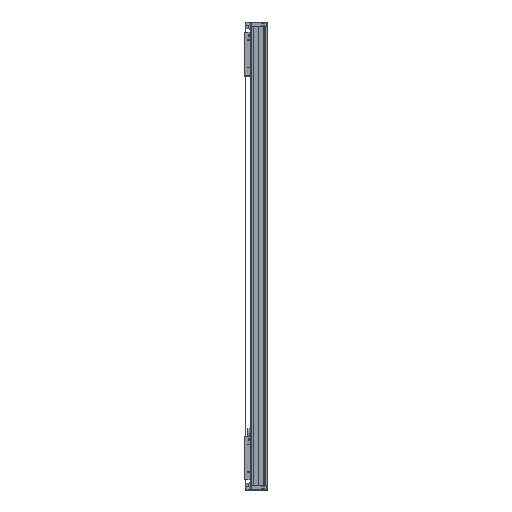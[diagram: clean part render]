
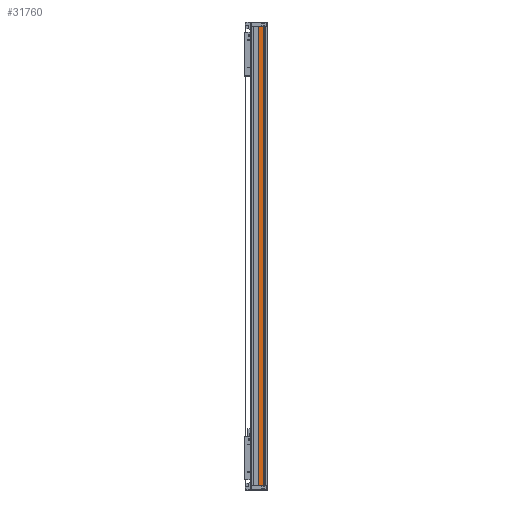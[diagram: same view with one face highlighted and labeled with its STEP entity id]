
A CAD part, left-side view. The second image highlights one B-rep face of the part: STEP entity #31760.
In plain terms, the highlighted planar face has unit normal (-1, 0, 0).
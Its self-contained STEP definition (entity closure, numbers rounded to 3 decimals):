
#253 = DIRECTION ( 'NONE',  ( 0., -1., 0. ) ) ;
#6316 = DIRECTION ( 'NONE',  ( 0., -1., 0. ) ) ;
#10297 = EDGE_CURVE ( 'NONE', #68422, #66374, #28330, .T. ) ;
#12590 = CARTESIAN_POINT ( 'NONE',  ( -41., 28., 750. ) ) ;
#14736 = DIRECTION ( 'NONE',  ( 1., 0., 0. ) ) ;
#19163 = AXIS2_PLACEMENT_3D ( 'NONE', #52039, #14736, #19345 ) ;
#19345 = DIRECTION ( 'NONE',  ( 0., 1., 0. ) ) ;
#23216 = DIRECTION ( 'NONE',  ( 0., 0., -1. ) ) ;
#23862 = EDGE_LOOP ( 'NONE', ( #42860, #25531, #59072, #67830 ) ) ;
#25531 = ORIENTED_EDGE ( 'NONE', *, *, #37155, .F. ) ;
#26899 = LINE ( 'NONE', #43949, #44994 ) ;
#28330 = LINE ( 'NONE', #39368, #67934 ) ;
#31760 = ADVANCED_FACE ( 'NONE', ( #67652 ), #46714, .F. ) ;
#32824 = LINE ( 'NONE', #12590, #45047 ) ;
#37155 = EDGE_CURVE ( 'NONE', #66374, #68915, #39187, .T. ) ;
#39187 = LINE ( 'NONE', #39546, #41783 ) ;
#39368 = CARTESIAN_POINT ( 'NONE',  ( -41., 28., 750. ) ) ;
#39546 = CARTESIAN_POINT ( 'NONE',  ( -41., 12., 750. ) ) ;
#40871 = CARTESIAN_POINT ( 'NONE',  ( -41., 12., -750. ) ) ;
#41783 = VECTOR ( 'NONE', #60498, 1000. ) ;
#42860 = ORIENTED_EDGE ( 'NONE', *, *, #53706, .T. ) ;
#43949 = CARTESIAN_POINT ( 'NONE',  ( -41., 28., -750. ) ) ;
#44994 = VECTOR ( 'NONE', #253, 1000. ) ;
#45047 = VECTOR ( 'NONE', #23216, 1000. ) ;
#46714 = PLANE ( 'NONE',  #19163 ) ;
#47937 = CARTESIAN_POINT ( 'NONE',  ( -41., 12., 750. ) ) ;
#52039 = CARTESIAN_POINT ( 'NONE',  ( -41., 28., 750. ) ) ;
#53706 = EDGE_CURVE ( 'NONE', #61431, #68915, #26899, .T. ) ;
#57277 = CARTESIAN_POINT ( 'NONE',  ( -41., 28., 750. ) ) ;
#59072 = ORIENTED_EDGE ( 'NONE', *, *, #10297, .F. ) ;
#60498 = DIRECTION ( 'NONE',  ( 0., 0., -1. ) ) ;
#60806 = CARTESIAN_POINT ( 'NONE',  ( -41., 28., -750. ) ) ;
#61431 = VERTEX_POINT ( 'NONE', #60806 ) ;
#62203 = EDGE_CURVE ( 'NONE', #68422, #61431, #32824, .T. ) ;
#66374 = VERTEX_POINT ( 'NONE', #47937 ) ;
#67652 = FACE_OUTER_BOUND ( 'NONE', #23862, .T. ) ;
#67830 = ORIENTED_EDGE ( 'NONE', *, *, #62203, .T. ) ;
#67934 = VECTOR ( 'NONE', #6316, 1000. ) ;
#68422 = VERTEX_POINT ( 'NONE', #57277 ) ;
#68915 = VERTEX_POINT ( 'NONE', #40871 ) ;
